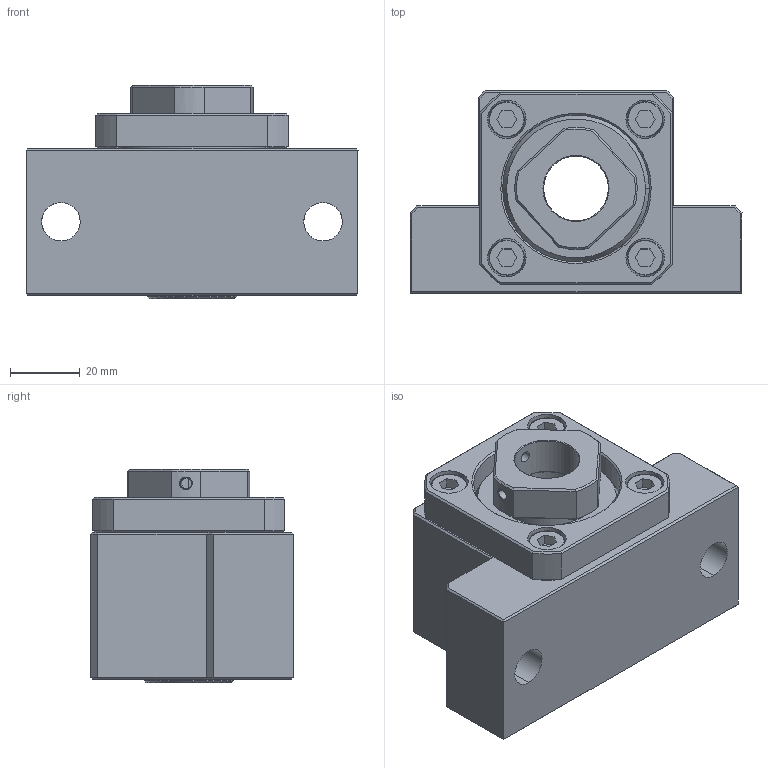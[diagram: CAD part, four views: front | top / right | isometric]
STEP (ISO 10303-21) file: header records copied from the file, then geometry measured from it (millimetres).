
FILE_DESCRIPTION (( 'STEP AP214' ), '1' );
FILE_NAME ('7.4032 EK20.STEP', '2026-03-06T08:01:53', ( '' ), ( '' ), 'SwSTEP 2.0', 'SolidWorks 2025', '' );
FILE_SCHEMA (( 'AUTOMOTIVE_DESIGN' ));
Length unit declared in the file: millimetre
Products named in the file (1): 7.4032 EK20
Bounding box: 95 x 58.1 x 61 mm (x, y, z)
Surface area: 36855.1 mm2 (no closed solid volume)
Topology: 0 solids, 12 shells, 253 faces, 615 edges, 385 vertices
Faces by surface type: plane 130, cylinder 49, cone 45, bspline 29
Entity records: 12758 total; most frequent: CARTESIAN_POINT 7821, ORIENTED_EDGE 1174, EDGE_CURVE 615, B_SPLINE_CURVE_WITH_KNOTS 599, DIRECTION 450, VERTEX_POINT 385, EDGE_LOOP 284, FACE_OUTER_BOUND 253
